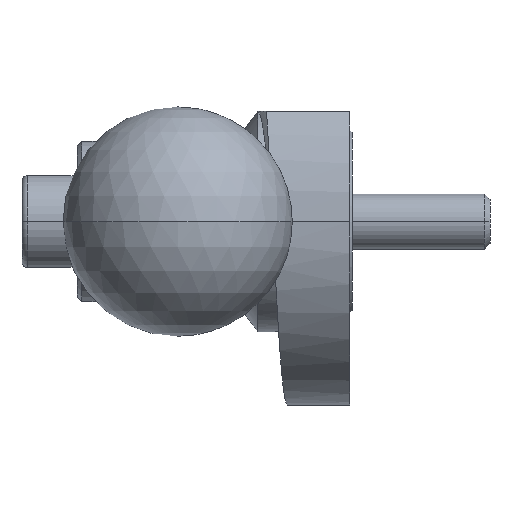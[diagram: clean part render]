
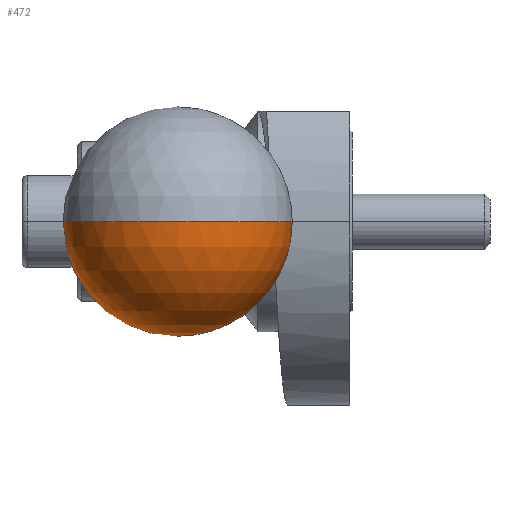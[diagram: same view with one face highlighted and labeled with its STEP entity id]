
A CAD part, left-side view. The second image highlights one B-rep face of the part: STEP entity #472.
In plain terms, the highlighted spherical face has radius 12.5 mm.
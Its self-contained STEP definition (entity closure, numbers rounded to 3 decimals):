
#152 = DIRECTION ( 'NONE',  ( 0., 1., 0. ) ) ;
#188 = DIRECTION ( 'NONE',  ( 0., -1., 0. ) ) ;
#381 = DIRECTION ( 'NONE',  ( 0., 0., -1. ) ) ;
#425 = ORIENTED_EDGE ( 'NONE', *, *, #2036, .F. ) ;
#468 = DIRECTION ( 'NONE',  ( 0., 0., 1. ) ) ;
#472 = ADVANCED_FACE ( 'NONE', ( #978 ), #1626, .T. ) ;
#484 = VERTEX_POINT ( 'NONE', #822 ) ;
#514 = AXIS2_PLACEMENT_3D ( 'NONE', #1479, #999, #188 ) ;
#523 = ORIENTED_EDGE ( 'NONE', *, *, #787, .T. ) ;
#595 = EDGE_LOOP ( 'NONE', ( #425, #523, #1668 ) ) ;
#600 = EDGE_CURVE ( 'NONE', #1636, #1393, #1154, .T. ) ;
#706 = CARTESIAN_POINT ( 'NONE',  ( -87.5, 8.75, 0. ) ) ;
#787 = EDGE_CURVE ( 'NONE', #484, #1393, #1695, .T. ) ;
#822 = CARTESIAN_POINT ( 'NONE',  ( -100., 8.75, 0. ) ) ;
#978 = FACE_OUTER_BOUND ( 'NONE', #595, .T. ) ;
#999 = DIRECTION ( 'NONE',  ( 0., 0., -1. ) ) ;
#1031 = CARTESIAN_POINT ( 'NONE',  ( -77.5, 1.25, 0. ) ) ;
#1095 = CARTESIAN_POINT ( 'NONE',  ( -77.5, 16.25, 0. ) ) ;
#1149 = DIRECTION ( 'NONE',  ( 1., 0., 0. ) ) ;
#1154 = CIRCLE ( 'NONE', #1693, 7.5 ) ;
#1254 = CARTESIAN_POINT ( 'NONE',  ( -87.5, 8.75, 0. ) ) ;
#1292 = CIRCLE ( 'NONE', #1525, 12.5 ) ;
#1393 = VERTEX_POINT ( 'NONE', #1095 ) ;
#1408 = DIRECTION ( 'NONE',  ( 1., 0., 0. ) ) ;
#1431 = CARTESIAN_POINT ( 'NONE',  ( -77.5, 8.75, 0. ) ) ;
#1479 = CARTESIAN_POINT ( 'NONE',  ( -87.5, 8.75, 0. ) ) ;
#1525 = AXIS2_PLACEMENT_3D ( 'NONE', #1254, #468, #1408 ) ;
#1532 = DIRECTION ( 'NONE',  ( 0., 1., 0. ) ) ;
#1626 = SPHERICAL_SURFACE ( 'NONE', #514, 12.5 ) ;
#1636 = VERTEX_POINT ( 'NONE', #1031 ) ;
#1668 = ORIENTED_EDGE ( 'NONE', *, *, #600, .F. ) ;
#1693 = AXIS2_PLACEMENT_3D ( 'NONE', #1431, #1149, #152 ) ;
#1695 = CIRCLE ( 'NONE', #2028, 12.5 ) ;
#2028 = AXIS2_PLACEMENT_3D ( 'NONE', #706, #381, #1532 ) ;
#2036 = EDGE_CURVE ( 'NONE', #484, #1636, #1292, .T. ) ;
